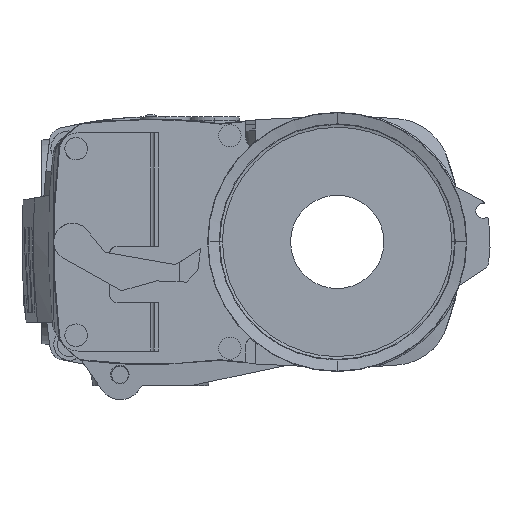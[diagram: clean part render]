
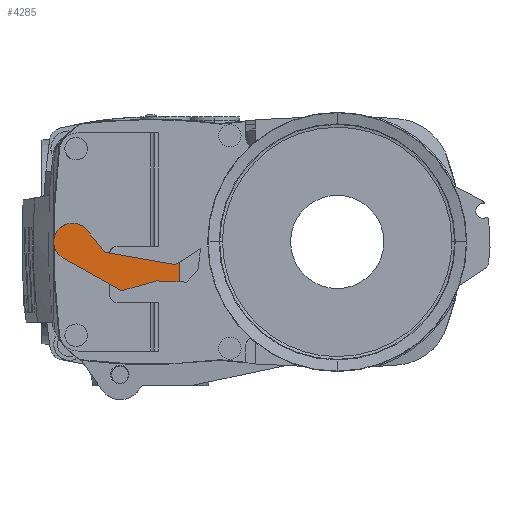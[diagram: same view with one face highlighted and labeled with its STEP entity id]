
A CAD part, left-side view. The second image highlights one B-rep face of the part: STEP entity #4285.
In plain terms, the highlighted planar face has unit normal (-1, 0, 0).
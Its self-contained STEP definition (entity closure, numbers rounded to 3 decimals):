
#579 = CARTESIAN_POINT ( 'NONE',  ( 288., 146.848, 1287.754 ) ) ;
#739 = LINE ( 'NONE', #9466, #2550 ) ;
#1558 = CARTESIAN_POINT ( 'NONE',  ( 288., 84.75, 1285.464 ) ) ;
#2550 = VECTOR ( 'NONE', #29413, 1000. ) ;
#3749 = DIRECTION ( 'NONE',  ( 0., 0.985, 0.174 ) ) ;
#4001 = CARTESIAN_POINT ( 'NONE',  ( 288., 86.575, 1284.288 ) ) ;
#4285 = ADVANCED_FACE ( 'NONE', ( #9042 ), #30335, .T. ) ;
#5347 = VECTOR ( 'NONE', #19559, 1000. ) ;
#6229 = CARTESIAN_POINT ( 'NONE',  ( 288., 97.052, 1275.594 ) ) ;
#6836 = B_SPLINE_CURVE_WITH_KNOTS ( 'NONE', 3,
 ( #13098, #13418, #14928, #13057, #12980, #12934, #12853, #12806, #12728, #12680, #12634, #12519, #12484, #12440, #12394, #12363, #12316, #12229 ),
 .UNSPECIFIED., .F., .F.,
 ( 4, 2, 2, 2, 2, 2, 2, 2, 4 ),
 ( 0., 0.125, 0.25, 0.375, 0.5, 0.625, 0.75, 0.875, 1. ),
 .UNSPECIFIED. ) ;
#8422 = LINE ( 'NONE', #4001, #23697 ) ;
#8868 = VECTOR ( 'NONE', #27628, 1000. ) ;
#9042 = FACE_OUTER_BOUND ( 'NONE', #12540, .T. ) ;
#9377 = EDGE_CURVE ( 'NONE', #24617, #27625, #10242, .T. ) ;
#9466 = CARTESIAN_POINT ( 'NONE',  ( 288., 84.75, 1296.5 ) ) ;
#9548 = EDGE_CURVE ( 'NONE', #28693, #24617, #8422, .T. ) ;
#9673 = EDGE_CURVE ( 'NONE', #33324, #28693, #29396, .T. ) ;
#9945 = EDGE_CURVE ( 'NONE', #25705, #30823, #24116, .T. ) ;
#10109 = EDGE_CURVE ( 'NONE', #26030, #25705, #28039, .T. ) ;
#10224 = EDGE_CURVE ( 'NONE', #27493, #26030, #11989, .T. ) ;
#10242 = LINE ( 'NONE', #17382, #17894 ) ;
#10320 = EDGE_CURVE ( 'NONE', #27493, #27625, #6836, .T. ) ;
#11989 = LINE ( 'NONE', #18588, #26293 ) ;
#12229 = CARTESIAN_POINT ( 'NONE',  ( 288., 134.34, 1302.928 ) ) ;
#12316 = CARTESIAN_POINT ( 'NONE',  ( 288., 135.279, 1304.048 ) ) ;
#12363 = CARTESIAN_POINT ( 'NONE',  ( 288., 136.467, 1304.957 ) ) ;
#12394 = CARTESIAN_POINT ( 'NONE',  ( 288., 139.12, 1306.187 ) ) ;
#12440 = CARTESIAN_POINT ( 'NONE',  ( 288., 140.582, 1306.506 ) ) ;
#12484 = CARTESIAN_POINT ( 'NONE',  ( 288., 143.505, 1306.494 ) ) ;
#12519 = CARTESIAN_POINT ( 'NONE',  ( 288., 144.965, 1306.162 ) ) ;
#12540 = EDGE_LOOP ( 'NONE', ( #22675, #23467, #23799, #24593, #25541, #26464, #28216, #29140 ) ) ;
#12634 = CARTESIAN_POINT ( 'NONE',  ( 288., 147.606, 1304.909 ) ) ;
#12680 = CARTESIAN_POINT ( 'NONE',  ( 288., 148.786, 1303.989 ) ) ;
#12728 = CARTESIAN_POINT ( 'NONE',  ( 288., 150.646, 1301.733 ) ) ;
#12806 = CARTESIAN_POINT ( 'NONE',  ( 288., 151.324, 1300.399 ) ) ;
#12853 = CARTESIAN_POINT ( 'NONE',  ( 288., 152.05, 1297.567 ) ) ;
#12934 = CARTESIAN_POINT ( 'NONE',  ( 288., 152.097, 1296.071 ) ) ;
#12980 = CARTESIAN_POINT ( 'NONE',  ( 288., 151.552, 1293.199 ) ) ;
#13057 = CARTESIAN_POINT ( 'NONE',  ( 288., 150.96, 1291.824 ) ) ;
#13098 = CARTESIAN_POINT ( 'NONE',  ( 288., 146.848, 1287.754 ) ) ;
#13418 = CARTESIAN_POINT ( 'NONE',  ( 288., 148.127, 1288.462 ) ) ;
#13921 = EDGE_CURVE ( 'NONE', #30823, #33324, #739, .T. ) ;
#14928 = CARTESIAN_POINT ( 'NONE',  ( 288., 149.246, 1289.455 ) ) ;
#16376 = DIRECTION ( 'NONE',  ( 0., 0.643, 0.766 ) ) ;
#16920 = DIRECTION ( 'NONE',  ( 0., -0.875, -0.485 ) ) ;
#17382 = CARTESIAN_POINT ( 'NONE',  ( 288., 134.34, 1302.928 ) ) ;
#17894 = VECTOR ( 'NONE', #16376, 1000. ) ;
#18588 = CARTESIAN_POINT ( 'NONE',  ( 288., 115.413, 1270.329 ) ) ;
#19275 = CARTESIAN_POINT ( 'NONE',  ( 288., 97.052, 1275.594 ) ) ;
#19559 = DIRECTION ( 'NONE',  ( 0., -0.961, 0.276 ) ) ;
#22675 = ORIENTED_EDGE ( 'NONE', *, *, #10320, .F. ) ;
#23123 = AXIS2_PLACEMENT_3D ( 'NONE', #29742, #29707, #29699 ) ;
#23467 = ORIENTED_EDGE ( 'NONE', *, *, #10224, .T. ) ;
#23697 = VECTOR ( 'NONE', #3749, 1000. ) ;
#23799 = ORIENTED_EDGE ( 'NONE', *, *, #10109, .T. ) ;
#24116 = LINE ( 'NONE', #27796, #8868 ) ;
#24593 = ORIENTED_EDGE ( 'NONE', *, *, #9945, .T. ) ;
#24617 = VERTEX_POINT ( 'NONE', #30814 ) ;
#25044 = CARTESIAN_POINT ( 'NONE',  ( 288., 115.413, 1270.329 ) ) ;
#25386 = DIRECTION ( 'NONE',  ( 0., 0.841, -0.542 ) ) ;
#25541 = ORIENTED_EDGE ( 'NONE', *, *, #13921, .T. ) ;
#25705 = VERTEX_POINT ( 'NONE', #6229 ) ;
#25709 = CARTESIAN_POINT ( 'NONE',  ( 288., 83.212, 1286.455 ) ) ;
#26030 = VERTEX_POINT ( 'NONE', #25044 ) ;
#26293 = VECTOR ( 'NONE', #16920, 1000. ) ;
#26464 = ORIENTED_EDGE ( 'NONE', *, *, #9673, .T. ) ;
#27493 = VERTEX_POINT ( 'NONE', #579 ) ;
#27625 = VERTEX_POINT ( 'NONE', #30997 ) ;
#27628 = DIRECTION ( 'NONE',  ( 0., -0.999, -0.04 ) ) ;
#27796 = CARTESIAN_POINT ( 'NONE',  ( 288., 85.749, 1275.147 ) ) ;
#28039 = LINE ( 'NONE', #19275, #5347 ) ;
#28216 = ORIENTED_EDGE ( 'NONE', *, *, #9548, .T. ) ;
#28693 = VERTEX_POINT ( 'NONE', #33411 ) ;
#29140 = ORIENTED_EDGE ( 'NONE', *, *, #9377, .T. ) ;
#29396 = LINE ( 'NONE', #25709, #35680 ) ;
#29413 = DIRECTION ( 'NONE',  ( 0., 0., 1. ) ) ;
#29699 = DIRECTION ( 'NONE',  ( 0., 0., 1. ) ) ;
#29707 = DIRECTION ( 'NONE',  ( -1., 0., 0. ) ) ;
#29742 = CARTESIAN_POINT ( 'NONE',  ( 288., 142., 1296.5 ) ) ;
#30335 = PLANE ( 'NONE',  #23123 ) ;
#30814 = CARTESIAN_POINT ( 'NONE',  ( 288., 124.277, 1290.936 ) ) ;
#30823 = VERTEX_POINT ( 'NONE', #35204 ) ;
#30997 = CARTESIAN_POINT ( 'NONE',  ( 288., 134.34, 1302.928 ) ) ;
#33324 = VERTEX_POINT ( 'NONE', #1558 ) ;
#33411 = CARTESIAN_POINT ( 'NONE',  ( 288., 86.575, 1284.288 ) ) ;
#35204 = CARTESIAN_POINT ( 'NONE',  ( 288., 84.75, 1275.108 ) ) ;
#35680 = VECTOR ( 'NONE', #25386, 1000. ) ;
